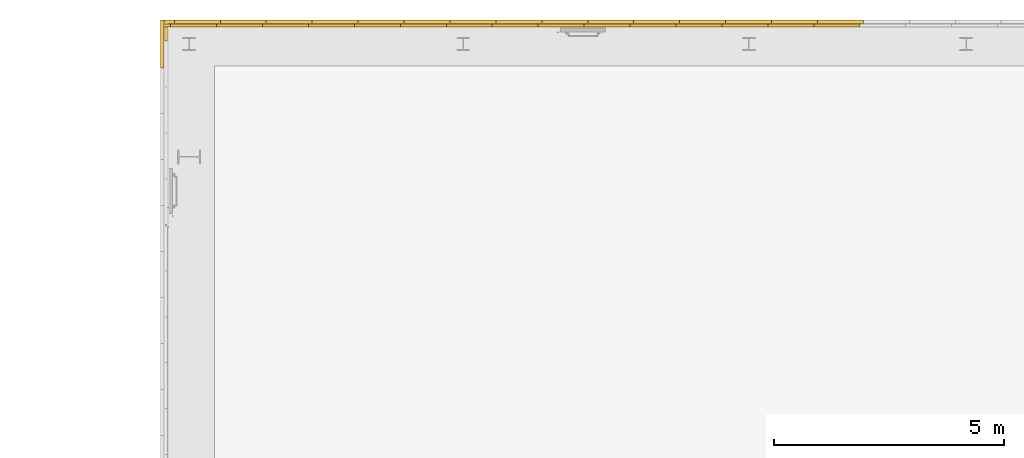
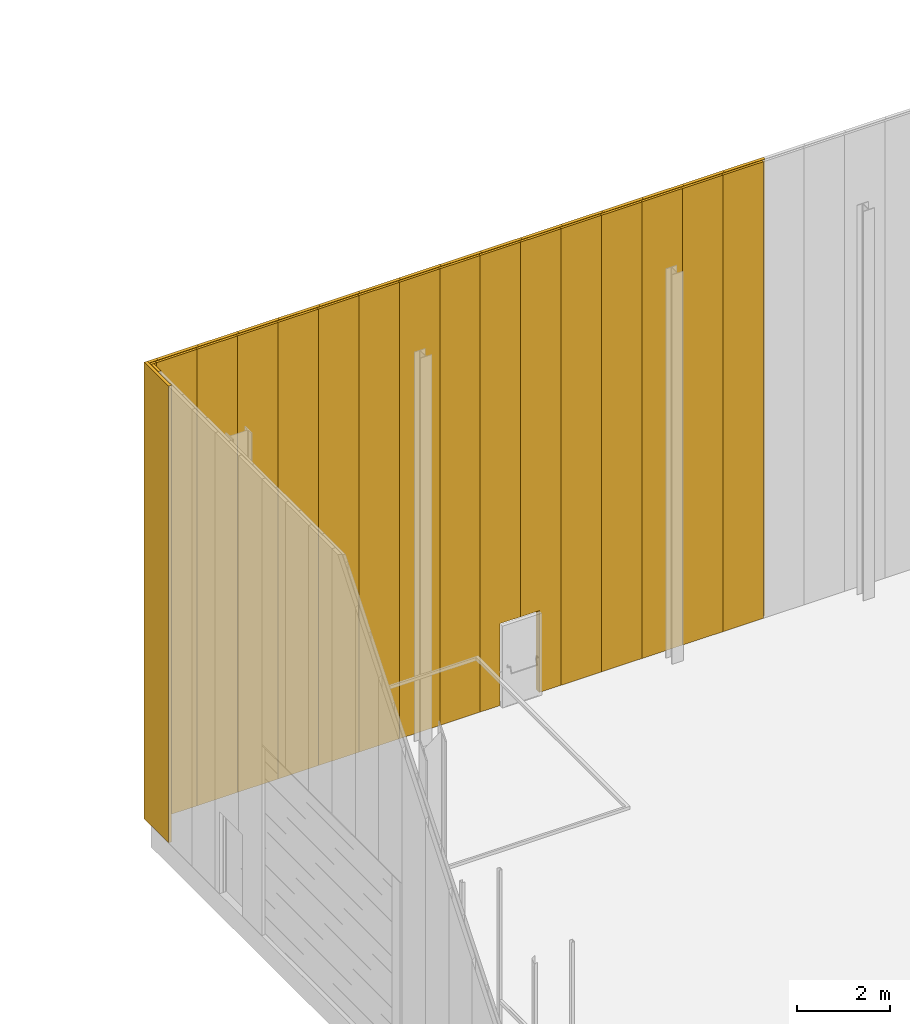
# One storey, part 247 of 302: 34 curtain walls, 4 openings, 4 elements without a shape of their own.
"""IFC2X3 building model written with IfcOpenShell, lengths in metres."""

from ifc_helpers import new_model, entity, si_unit, converted_unit, derived_unit, direction, frame, frame_2d, origin, place, context, subcontext, project, spatial, rectangle, extrude, material, layer, layer_set, layer_usage, type_object, element, aggregate, save


model = new_model("IFC2X3")

# Units and contexts
model_context = context("Model", 3, precision=1e-05, world=origin(), true_north=direction((6.12303176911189e-17, 1.0)))
body_context = subcontext(model_context, "Body", "Model", "MODEL_VIEW")
ifc_project = project(units=[si_unit("LENGTHUNIT", "METRE"), si_unit("AREAUNIT", "SQUARE_METRE"), si_unit("VOLUMEUNIT", "CUBIC_METRE"), converted_unit("PLANEANGLEUNIT", "DEGREE", entity("IfcRatioMeasure", 0.0174532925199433), si_unit("PLANEANGLEUNIT", "RADIAN"), dimensions=[0, 0, 0, 0, 0, 0, 0]), si_unit("MASSUNIT", "GRAM", prefix="KILO"), derived_unit("MASSDENSITYUNIT", [(si_unit("MASSUNIT", "GRAM", prefix="KILO"), 1), (si_unit("LENGTHUNIT", "METRE"), -3)]), derived_unit("MOMENTOFINERTIAUNIT", [(si_unit("LENGTHUNIT", "METRE"), 4)]), si_unit("TIMEUNIT", "SECOND"), si_unit("FREQUENCYUNIT", "HERTZ"), si_unit("THERMODYNAMICTEMPERATUREUNIT", "DEGREE_CELSIUS"), derived_unit("THERMALTRANSMITTANCEUNIT", [(si_unit("MASSUNIT", "GRAM", prefix="KILO"), 1), (si_unit("THERMODYNAMICTEMPERATUREUNIT", "KELVIN"), -1), (si_unit("TIMEUNIT", "SECOND"), -3)]), derived_unit("VOLUMETRICFLOWRATEUNIT", [(si_unit("LENGTHUNIT", "METRE"), 3), (si_unit("TIMEUNIT", "SECOND"), -1)]), si_unit("ELECTRICCURRENTUNIT", "AMPERE"), si_unit("ELECTRICVOLTAGEUNIT", "VOLT"), si_unit("POWERUNIT", "WATT"), si_unit("FORCEUNIT", "NEWTON", prefix="KILO"), si_unit("ILLUMINANCEUNIT", "LUX"), si_unit("LUMINOUSFLUXUNIT", "LUMEN"), si_unit("LUMINOUSINTENSITYUNIT", "CANDELA"), derived_unit("USERDEFINED", [(si_unit("MASSUNIT", "GRAM", prefix="KILO"), -1), (si_unit("LENGTHUNIT", "METRE"), -2), (si_unit("TIMEUNIT", "SECOND"), 3), (si_unit("LUMINOUSFLUXUNIT", "LUMEN"), 1)]), derived_unit("LINEARVELOCITYUNIT", [(si_unit("LENGTHUNIT", "METRE"), 1), (si_unit("TIMEUNIT", "SECOND"), -1)]), si_unit("PRESSUREUNIT", "PASCAL"), derived_unit("USERDEFINED", [(si_unit("LENGTHUNIT", "METRE"), -2), (si_unit("MASSUNIT", "GRAM", prefix="KILO"), 1), (si_unit("TIMEUNIT", "SECOND"), -2)]), derived_unit("LINEARFORCEUNIT", [(si_unit("MASSUNIT", "GRAM", prefix="KILO"), 1), (si_unit("LENGTHUNIT", "METRE"), 1), (si_unit("TIMEUNIT", "SECOND"), -2), (si_unit("LENGTHUNIT", "METRE"), -1)]), derived_unit("PLANARFORCEUNIT", [(si_unit("MASSUNIT", "GRAM", prefix="KILO"), 1), (si_unit("LENGTHUNIT", "METRE"), 1), (si_unit("TIMEUNIT", "SECOND"), -2), (si_unit("LENGTHUNIT", "METRE"), -2)])], contexts=[model_context])

# Site, building, storey
site_placement = place(None, origin())
site = spatial("IfcSite", under=ifc_project, at=site_placement, Name="Default", CompositionType="ELEMENT")
building_placement = place(site_placement, origin())
building = spatial("IfcBuilding", under=site, at=building_placement, CompositionType="ELEMENT")
storey_placement = place(building_placement, frame((0.0, 0.0, -1.3)))
storey = spatial("IfcBuildingStorey", under=building, at=storey_placement, Name="00_EG", CompositionType="ELEMENT", Elevation=-1.3)

# Curtain walls
curtain_wall_type_1 = type_object("IfcCurtainWallType", PredefinedType="NOTDEFINED")
curtain_wall_1_placement = place(storey_placement, frame((0.0, 0.0, 1.3)))
curtain_wall_1 = element("IfcCurtainWall", 1, at=curtain_wall_1_placement, inside=storey, type_object=curtain_wall_type_1)
ifc_material_1 = material(Name="Prepainted_Steel-ArcelorMittal_Construction_HAIRULTRA-35-CORAL-4309-[RAL_3000]")
ifc_layer_1 = layer(ifc_material_1, 0.01)
ifc_material_2 = material(Name="ArcelorMittal-MineralWool")
ifc_layer_2 = layer(ifc_material_2, 0.06)
ifc_layer_3 = layer(ifc_material_1, 0.01)
ifc_layer_set_1 = layer_set([ifc_layer_1, ifc_layer_2, ifc_layer_3], Name="Fassade:Sandwichpaneele Gebäude B 80mm")
ifc_layer_usage_1 = layer_usage(ifc_layer_set_1, "AXIS2", "NEGATIVE", 0.04)
curtain_wall_type_2 = type_object("IfcCurtainWallType", Name="Basiswand:Sandwichpaneele d = 8cm aussen", PredefinedType="NOTDEFINED", material=ifc_layer_set_1)
curtain_wall_2_placement = place(storey_placement, frame((-207.570111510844, 76.208088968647, 1.27), z_axis=(0.0, 0.0, 1.0), x_axis=(0.0, -1.0, 0.0)))
curtain_wall_2 = element("IfcCurtainWall", 2, at=curtain_wall_2_placement, type_object=curtain_wall_type_2, material=ifc_layer_usage_1, Name="Basiswand:Sandwichpaneele d = 8cm aussen", ObjectType="Basiswand:Sandwichpaneele d = 8cm aussen", context=body_context, shape_type="SweptSolid", body=[
    extrude(rectangle(XDim=1.04000000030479, YDim=0.0799999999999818, at=frame_2d((0.520000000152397, 0.0), x_axis=(-1.0, 0.0))), origin(), (0.0, 0.0, 1.0), 11.9314),
])
aggregate(curtain_wall_1, [curtain_wall_2])

# Curtain walls, openings
curtain_wall_3_placement = place(storey_placement, frame((0.0, 0.0, 1.3)))
curtain_wall_3 = element("IfcCurtainWall", 3, at=curtain_wall_3_placement, inside=storey, type_object=curtain_wall_type_1)
ifc_layer_usage_2 = layer_usage(ifc_layer_set_1, "AXIS2", "NEGATIVE", 0.04)
curtain_wall_4_placement = place(storey_placement, frame((-192.310111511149, 76.168088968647, 1.27), z_axis=(0.0, 0.0, 1.0), x_axis=(-1.0, 0.0, 0.0)))
curtain_wall_4 = element("IfcCurtainWall", 4, at=curtain_wall_4_placement, type_object=curtain_wall_type_2, material=ifc_layer_usage_2, Name="Basiswand:Sandwichpaneele d = 8cm aussen", ObjectType="Basiswand:Sandwichpaneele d = 8cm aussen", context=body_context, shape_type="SweptSolid", body=[
    extrude(rectangle(XDim=1.00000000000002, YDim=0.0799999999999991, at=frame_2d((0.500000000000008, 0.0), x_axis=(-1.0, 0.0))), origin(), (0.0, 0.0, 1.0), 11.9314),
])
ifc_layer_usage_3 = layer_usage(ifc_layer_set_1, "AXIS2", "NEGATIVE", 0.04)
curtain_wall_5_placement = place(storey_placement, frame((-193.310111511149, 76.168088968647, 1.27), z_axis=(0.0, 0.0, 1.0), x_axis=(-1.0, 0.0, 0.0)))
curtain_wall_5 = element("IfcCurtainWall", 5, at=curtain_wall_5_placement, type_object=curtain_wall_type_2, material=ifc_layer_usage_3, Name="Basiswand:Sandwichpaneele d = 8cm aussen", ObjectType="Basiswand:Sandwichpaneele d = 8cm aussen", context=body_context, shape_type="SweptSolid", body=[
    extrude(rectangle(XDim=0.999999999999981, YDim=0.0799999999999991, at=frame_2d((0.49999999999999, 0.0), x_axis=(-1.0, 0.0))), origin(), (0.0, 0.0, 1.0), 11.9314),
])
ifc_layer_usage_4 = layer_usage(ifc_layer_set_1, "AXIS2", "NEGATIVE", 0.04)
curtain_wall_6_placement = place(storey_placement, frame((-194.310111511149, 76.168088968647, 1.27), z_axis=(0.0, 0.0, 1.0), x_axis=(-1.0, 0.0, 0.0)))
curtain_wall_6 = element("IfcCurtainWall", 6, at=curtain_wall_6_placement, type_object=curtain_wall_type_2, material=ifc_layer_usage_4, Name="Basiswand:Sandwichpaneele d = 8cm aussen", ObjectType="Basiswand:Sandwichpaneele d = 8cm aussen", context=body_context, shape_type="SweptSolid", body=[
    extrude(rectangle(XDim=1.00000000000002, YDim=0.0799999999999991, at=frame_2d((0.500000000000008, 0.0), x_axis=(-1.0, 0.0))), origin(), (0.0, 0.0, 1.0), 11.9314),
])
ifc_layer_usage_5 = layer_usage(ifc_layer_set_1, "AXIS2", "NEGATIVE", 0.04)
curtain_wall_7_placement = place(storey_placement, frame((-195.310111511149, 76.168088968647, 1.27), z_axis=(0.0, 0.0, 1.0), x_axis=(-1.0, 0.0, 0.0)))
curtain_wall_7 = element("IfcCurtainWall", 7, at=curtain_wall_7_placement, type_object=curtain_wall_type_2, material=ifc_layer_usage_5, Name="Basiswand:Sandwichpaneele d = 8cm aussen", ObjectType="Basiswand:Sandwichpaneele d = 8cm aussen", context=body_context, shape_type="SweptSolid", body=[
    extrude(rectangle(XDim=1.00000000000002, YDim=0.0799999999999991, at=frame_2d((0.500000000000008, 0.0), x_axis=(-1.0, 0.0))), origin(), (0.0, 0.0, 1.0), 11.9314),
])
ifc_layer_usage_6 = layer_usage(ifc_layer_set_1, "AXIS2", "NEGATIVE", 0.04)
curtain_wall_8_placement = place(storey_placement, frame((-196.310111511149, 76.168088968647, 1.27), z_axis=(0.0, 0.0, 1.0), x_axis=(-1.0, 0.0, 0.0)))
curtain_wall_8 = element("IfcCurtainWall", 8, at=curtain_wall_8_placement, type_object=curtain_wall_type_2, material=ifc_layer_usage_6, Name="Basiswand:Sandwichpaneele d = 8cm aussen", ObjectType="Basiswand:Sandwichpaneele d = 8cm aussen", context=body_context, shape_type="SweptSolid", body=[
    extrude(rectangle(XDim=0.999999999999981, YDim=0.0799999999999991, at=frame_2d((0.49999999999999, 0.0), x_axis=(-1.0, 0.0))), origin(), (0.0, 0.0, 1.0), 11.9314),
])
ifc_layer_usage_7 = layer_usage(ifc_layer_set_1, "AXIS2", "NEGATIVE", 0.04)
curtain_wall_9_placement = place(storey_placement, frame((-197.310111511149, 76.168088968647, 1.27), z_axis=(0.0, 0.0, 1.0), x_axis=(-1.0, 0.0, 0.0)))
curtain_wall_9 = element("IfcCurtainWall", 9, at=curtain_wall_9_placement, type_object=curtain_wall_type_2, material=ifc_layer_usage_7, Name="Basiswand:Sandwichpaneele d = 8cm aussen", ObjectType="Basiswand:Sandwichpaneele d = 8cm aussen", context=body_context, shape_type="SweptSolid", body=[
    extrude(rectangle(XDim=1.00000000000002, YDim=0.0799999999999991, at=frame_2d((0.500000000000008, 0.0), x_axis=(-1.0, 0.0))), origin(), (0.0, 0.0, 1.0), 11.9314),
])
opening_1_placement = place(curtain_wall_9_placement, origin())
opening_1 = element("IfcOpeningElement", 10, at=opening_1_placement, cuts=curtain_wall_9, Name="Basiswand:Sandwichpaneele d = 8cm aussen", ObjectType="Opening", context=body_context, shape_type="SweptSolid", body=[
    extrude(rectangle(XDim=2.16999999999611, YDim=0.979999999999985, at=frame_2d((-1.73194791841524e-14, 4.44089209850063e-16), x_axis=(0.0, 1.0))), frame((1.10666669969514, -0.0400000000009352, 1.05499999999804), z_axis=(0.0, 1.0, 0.0), x_axis=(1.0, 0.0, 0.0)), (0.0, 0.0, 1.0), 0.169999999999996),
])
ifc_layer_usage_8 = layer_usage(ifc_layer_set_1, "AXIS2", "NEGATIVE", 0.04)
curtain_wall_10_placement = place(storey_placement, frame((-198.310111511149, 76.168088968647, 1.27), z_axis=(0.0, 0.0, 1.0), x_axis=(-1.0, 0.0, 0.0)))
curtain_wall_10 = element("IfcCurtainWall", 11, at=curtain_wall_10_placement, type_object=curtain_wall_type_2, material=ifc_layer_usage_8, Name="Basiswand:Sandwichpaneele d = 8cm aussen", ObjectType="Basiswand:Sandwichpaneele d = 8cm aussen", context=body_context, shape_type="SweptSolid", body=[
    extrude(rectangle(XDim=0.999999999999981, YDim=0.0799999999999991, at=frame_2d((0.49999999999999, 0.0), x_axis=(-1.0, 0.0))), origin(), (0.0, 0.0, 1.0), 11.9314),
])
opening_2_placement = place(curtain_wall_10_placement, origin())
opening_2 = element("IfcOpeningElement", 12, at=opening_2_placement, cuts=curtain_wall_10, Name="Basiswand:Sandwichpaneele d = 8cm aussen", ObjectType="Opening", context=body_context, shape_type="SweptSolid", body=[
    extrude(rectangle(XDim=2.16999999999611, YDim=0.979999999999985, at=frame_2d((-1.73194791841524e-14, 4.44089209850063e-16), x_axis=(0.0, 1.0))), frame((0.106666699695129, -0.0400000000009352, 1.05499999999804), z_axis=(0.0, 1.0, 0.0), x_axis=(1.0, 0.0, 0.0)), (0.0, 0.0, 1.0), 0.169999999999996),
])
ifc_layer_usage_9 = layer_usage(ifc_layer_set_1, "AXIS2", "NEGATIVE", 0.04)
curtain_wall_11_placement = place(storey_placement, frame((-199.310111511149, 76.168088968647, 1.27), z_axis=(0.0, 0.0, 1.0), x_axis=(-1.0, 0.0, 0.0)))
curtain_wall_11 = element("IfcCurtainWall", 13, at=curtain_wall_11_placement, type_object=curtain_wall_type_2, material=ifc_layer_usage_9, Name="Basiswand:Sandwichpaneele d = 8cm aussen", ObjectType="Basiswand:Sandwichpaneele d = 8cm aussen", context=body_context, shape_type="SweptSolid", body=[
    extrude(rectangle(XDim=1.00000000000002, YDim=0.0799999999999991, at=frame_2d((0.500000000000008, 0.0), x_axis=(-1.0, 0.0))), origin(), (0.0, 0.0, 1.0), 11.9314),
])
ifc_layer_usage_10 = layer_usage(ifc_layer_set_1, "AXIS2", "NEGATIVE", 0.04)
curtain_wall_12_placement = place(storey_placement, frame((-200.310111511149, 76.168088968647, 1.27), z_axis=(0.0, 0.0, 1.0), x_axis=(-1.0, 0.0, 0.0)))
curtain_wall_12 = element("IfcCurtainWall", 14, at=curtain_wall_12_placement, type_object=curtain_wall_type_2, material=ifc_layer_usage_10, Name="Basiswand:Sandwichpaneele d = 8cm aussen", ObjectType="Basiswand:Sandwichpaneele d = 8cm aussen", context=body_context, shape_type="SweptSolid", body=[
    extrude(rectangle(XDim=0.999999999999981, YDim=0.0799999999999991, at=frame_2d((0.49999999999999, 0.0), x_axis=(-1.0, 0.0))), origin(), (0.0, 0.0, 1.0), 11.9314),
])
ifc_layer_usage_11 = layer_usage(ifc_layer_set_1, "AXIS2", "NEGATIVE", 0.04)
curtain_wall_13_placement = place(storey_placement, frame((-201.310111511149, 76.168088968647, 1.27), z_axis=(0.0, 0.0, 1.0), x_axis=(-1.0, 0.0, 0.0)))
curtain_wall_13 = element("IfcCurtainWall", 15, at=curtain_wall_13_placement, type_object=curtain_wall_type_2, material=ifc_layer_usage_11, Name="Basiswand:Sandwichpaneele d = 8cm aussen", ObjectType="Basiswand:Sandwichpaneele d = 8cm aussen", context=body_context, shape_type="SweptSolid", body=[
    extrude(rectangle(XDim=1.00000000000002, YDim=0.0799999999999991, at=frame_2d((0.500000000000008, 0.0), x_axis=(-1.0, 0.0))), origin(), (0.0, 0.0, 1.0), 11.9314),
])
ifc_layer_usage_12 = layer_usage(ifc_layer_set_1, "AXIS2", "NEGATIVE", 0.04)
curtain_wall_14_placement = place(storey_placement, frame((-202.310111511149, 76.168088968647, 1.27), z_axis=(0.0, 0.0, 1.0), x_axis=(-1.0, 0.0, 0.0)))
curtain_wall_14 = element("IfcCurtainWall", 16, at=curtain_wall_14_placement, type_object=curtain_wall_type_2, material=ifc_layer_usage_12, Name="Basiswand:Sandwichpaneele d = 8cm aussen", ObjectType="Basiswand:Sandwichpaneele d = 8cm aussen", context=body_context, shape_type="SweptSolid", body=[
    extrude(rectangle(XDim=0.999999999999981, YDim=0.0799999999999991, at=frame_2d((0.49999999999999, 0.0), x_axis=(-1.0, 0.0))), origin(), (0.0, 0.0, 1.0), 11.9314),
])
ifc_layer_usage_13 = layer_usage(ifc_layer_set_1, "AXIS2", "NEGATIVE", 0.04)
curtain_wall_15_placement = place(storey_placement, frame((-203.310111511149, 76.168088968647, 1.27), z_axis=(0.0, 0.0, 1.0), x_axis=(-1.0, 0.0, 0.0)))
curtain_wall_15 = element("IfcCurtainWall", 17, at=curtain_wall_15_placement, type_object=curtain_wall_type_2, material=ifc_layer_usage_13, Name="Basiswand:Sandwichpaneele d = 8cm aussen", ObjectType="Basiswand:Sandwichpaneele d = 8cm aussen", context=body_context, shape_type="SweptSolid", body=[
    extrude(rectangle(XDim=1.00000000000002, YDim=0.0799999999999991, at=frame_2d((0.500000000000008, 0.0), x_axis=(-1.0, 0.0))), origin(), (0.0, 0.0, 1.0), 11.9314),
])
ifc_layer_usage_14 = layer_usage(ifc_layer_set_1, "AXIS2", "NEGATIVE", 0.04)
curtain_wall_16_placement = place(storey_placement, frame((-204.310111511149, 76.168088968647, 1.27), z_axis=(0.0, 0.0, 1.0), x_axis=(-1.0, 0.0, 0.0)))
curtain_wall_16 = element("IfcCurtainWall", 18, at=curtain_wall_16_placement, type_object=curtain_wall_type_2, material=ifc_layer_usage_14, Name="Basiswand:Sandwichpaneele d = 8cm aussen", ObjectType="Basiswand:Sandwichpaneele d = 8cm aussen", context=body_context, shape_type="SweptSolid", body=[
    extrude(rectangle(XDim=0.999999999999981, YDim=0.0799999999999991, at=frame_2d((0.49999999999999, 0.0), x_axis=(-1.0, 0.0))), origin(), (0.0, 0.0, 1.0), 11.9314),
])
ifc_layer_usage_15 = layer_usage(ifc_layer_set_1, "AXIS2", "NEGATIVE", 0.04)
curtain_wall_17_placement = place(storey_placement, frame((-205.310111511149, 76.168088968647, 1.27), z_axis=(0.0, 0.0, 1.0), x_axis=(-1.0, 0.0, 0.0)))
curtain_wall_17 = element("IfcCurtainWall", 19, at=curtain_wall_17_placement, type_object=curtain_wall_type_2, material=ifc_layer_usage_15, Name="Basiswand:Sandwichpaneele d = 8cm aussen", ObjectType="Basiswand:Sandwichpaneele d = 8cm aussen", context=body_context, shape_type="SweptSolid", body=[
    extrude(rectangle(XDim=1.00000000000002, YDim=0.0799999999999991, at=frame_2d((0.500000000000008, 0.0), x_axis=(-1.0, 0.0))), origin(), (0.0, 0.0, 1.0), 11.9314),
])
ifc_layer_usage_16 = layer_usage(ifc_layer_set_1, "AXIS2", "NEGATIVE", 0.04)
curtain_wall_18_placement = place(storey_placement, frame((-206.310111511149, 76.168088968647, 1.27), z_axis=(0.0, 0.0, 1.0), x_axis=(-1.0, 0.0, 0.0)))
curtain_wall_18 = element("IfcCurtainWall", 20, at=curtain_wall_18_placement, type_object=curtain_wall_type_2, material=ifc_layer_usage_16, Name="Basiswand:Sandwichpaneele d = 8cm aussen", ObjectType="Basiswand:Sandwichpaneele d = 8cm aussen", context=body_context, shape_type="SweptSolid", body=[
    extrude(rectangle(XDim=0.999999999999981, YDim=0.0799999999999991, at=frame_2d((0.49999999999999, 0.0), x_axis=(-1.0, 0.0))), origin(), (0.0, 0.0, 1.0), 11.9314),
])
ifc_layer_usage_17 = layer_usage(ifc_layer_set_1, "AXIS2", "NEGATIVE", 0.04)
curtain_wall_19_placement = place(storey_placement, frame((-207.310111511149, 76.168088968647, 1.27), z_axis=(0.0, 0.0, 1.0), x_axis=(-1.0, 0.0, 0.0)))
curtain_wall_19 = element("IfcCurtainWall", 21, at=curtain_wall_19_placement, type_object=curtain_wall_type_2, material=ifc_layer_usage_17, Name="Basiswand:Sandwichpaneele d = 8cm aussen", ObjectType="Basiswand:Sandwichpaneele d = 8cm aussen", context=body_context, shape_type="SweptSolid", body=[
    extrude(rectangle(XDim=0.219999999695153, YDim=0.0799999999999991, at=frame_2d((0.109999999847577, 0.0), x_axis=(-1.0, 0.0))), origin(), (0.0, 0.0, 1.0), 11.9314),
])
aggregate(curtain_wall_3, [curtain_wall_4, curtain_wall_5, curtain_wall_6, curtain_wall_7, curtain_wall_8, curtain_wall_9, opening_1, curtain_wall_10, opening_2, curtain_wall_11, curtain_wall_12, curtain_wall_13, curtain_wall_14, curtain_wall_15, curtain_wall_16, curtain_wall_17, curtain_wall_18, curtain_wall_19])

# Curtain walls
curtain_wall_type_3 = type_object("IfcCurtainWallType", PredefinedType="NOTDEFINED")
curtain_wall_20_placement = place(storey_placement, frame((0.0, 0.0, 1.3)))
curtain_wall_20 = element("IfcCurtainWall", 22, at=curtain_wall_20_placement, inside=storey, type_object=curtain_wall_type_3)
ifc_layer_4 = layer(ifc_material_1, 0.01)
ifc_layer_5 = layer(ifc_material_2, 0.04)
ifc_layer_6 = layer(ifc_material_1, 0.01)
ifc_layer_set_2 = layer_set([ifc_layer_4, ifc_layer_5, ifc_layer_6], Name="Fassade:Sandwichpaneele Gebäude B 60mm")
ifc_layer_usage_18 = layer_usage(ifc_layer_set_2, "AXIS2", "NEGATIVE", 0.03)
curtain_wall_type_4 = type_object("IfcCurtainWallType", Name="Basiswand:Sandwichpaneele d = 6cm aussen", PredefinedType="NOTDEFINED", material=ifc_layer_set_2)
curtain_wall_21_placement = place(storey_placement, frame((-207.490111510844, 75.7480889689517, 1.27), z_axis=(0.0, 0.0, 1.0), x_axis=(0.0, 1.0, 0.0)))
curtain_wall_21 = element("IfcCurtainWall", 23, at=curtain_wall_21_placement, type_object=curtain_wall_type_4, material=ifc_layer_usage_18, Name="Basiswand:Sandwichpaneele d = 6cm aussen", ObjectType="Basiswand:Sandwichpaneele d = 6cm aussen", context=body_context, shape_type="SweptSolid", body=[
    extrude(rectangle(XDim=0.309999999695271, YDim=0.0599999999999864, at=frame_2d((0.154999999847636, 0.0), x_axis=(-1.0, 0.0))), origin(), (0.0, 0.0, 1.0), 11.9314),
])
aggregate(curtain_wall_20, [curtain_wall_21])

# Curtain walls, openings
curtain_wall_22_placement = place(storey_placement, frame((0.0, 0.0, 1.3)))
curtain_wall_22 = element("IfcCurtainWall", 24, at=curtain_wall_22_placement, inside=storey, type_object=curtain_wall_type_3)
ifc_layer_usage_19 = layer_usage(ifc_layer_set_2, "AXIS2", "NEGATIVE", 0.03)
curtain_wall_23_placement = place(storey_placement, frame((-192.390111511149, 76.088088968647, 1.27), z_axis=(0.0, 0.0, 1.0), x_axis=(-1.0, 0.0, 0.0)))
curtain_wall_23 = element("IfcCurtainWall", 25, at=curtain_wall_23_placement, type_object=curtain_wall_type_4, material=ifc_layer_usage_19, Name="Basiswand:Sandwichpaneele d = 6cm aussen", ObjectType="Basiswand:Sandwichpaneele d = 6cm aussen", context=body_context, shape_type="SweptSolid", body=[
    extrude(rectangle(XDim=1.00000000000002, YDim=0.0600000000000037, at=frame_2d((0.500000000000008, 2.89698820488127e-16), x_axis=(-1.0, 0.0))), origin(), (0.0, 0.0, 1.0), 11.9314),
])
ifc_layer_usage_20 = layer_usage(ifc_layer_set_2, "AXIS2", "NEGATIVE", 0.03)
curtain_wall_24_placement = place(storey_placement, frame((-193.390111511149, 76.088088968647, 1.27), z_axis=(0.0, 0.0, 1.0), x_axis=(-1.0, 0.0, 0.0)))
curtain_wall_24 = element("IfcCurtainWall", 26, at=curtain_wall_24_placement, type_object=curtain_wall_type_4, material=ifc_layer_usage_20, Name="Basiswand:Sandwichpaneele d = 6cm aussen", ObjectType="Basiswand:Sandwichpaneele d = 6cm aussen", context=body_context, shape_type="SweptSolid", body=[
    extrude(rectangle(XDim=1.00000000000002, YDim=0.0600000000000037, at=frame_2d((0.500000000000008, 2.89698820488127e-16), x_axis=(-1.0, 0.0))), origin(), (0.0, 0.0, 1.0), 11.9314),
])
ifc_layer_usage_21 = layer_usage(ifc_layer_set_2, "AXIS2", "NEGATIVE", 0.03)
curtain_wall_25_placement = place(storey_placement, frame((-194.390111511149, 76.088088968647, 1.27), z_axis=(0.0, 0.0, 1.0), x_axis=(-1.0, 0.0, 0.0)))
curtain_wall_25 = element("IfcCurtainWall", 27, at=curtain_wall_25_placement, type_object=curtain_wall_type_4, material=ifc_layer_usage_21, Name="Basiswand:Sandwichpaneele d = 6cm aussen", ObjectType="Basiswand:Sandwichpaneele d = 6cm aussen", context=body_context, shape_type="SweptSolid", body=[
    extrude(rectangle(XDim=0.999999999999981, YDim=0.0600000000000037, at=frame_2d((0.49999999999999, 2.89698820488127e-16), x_axis=(-1.0, 0.0))), origin(), (0.0, 0.0, 1.0), 11.9314),
])
ifc_layer_usage_22 = layer_usage(ifc_layer_set_2, "AXIS2", "NEGATIVE", 0.03)
curtain_wall_26_placement = place(storey_placement, frame((-195.390111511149, 76.088088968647, 1.27), z_axis=(0.0, 0.0, 1.0), x_axis=(-1.0, 0.0, 0.0)))
curtain_wall_26 = element("IfcCurtainWall", 28, at=curtain_wall_26_placement, type_object=curtain_wall_type_4, material=ifc_layer_usage_22, Name="Basiswand:Sandwichpaneele d = 6cm aussen", ObjectType="Basiswand:Sandwichpaneele d = 6cm aussen", context=body_context, shape_type="SweptSolid", body=[
    extrude(rectangle(XDim=1.00000000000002, YDim=0.0600000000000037, at=frame_2d((0.500000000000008, 2.89698820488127e-16), x_axis=(-1.0, 0.0))), origin(), (0.0, 0.0, 1.0), 11.9314),
])
ifc_layer_usage_23 = layer_usage(ifc_layer_set_2, "AXIS2", "NEGATIVE", 0.03)
curtain_wall_27_placement = place(storey_placement, frame((-196.390111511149, 76.088088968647, 1.27), z_axis=(0.0, 0.0, 1.0), x_axis=(-1.0, 0.0, 0.0)))
curtain_wall_27 = element("IfcCurtainWall", 29, at=curtain_wall_27_placement, type_object=curtain_wall_type_4, material=ifc_layer_usage_23, Name="Basiswand:Sandwichpaneele d = 6cm aussen", ObjectType="Basiswand:Sandwichpaneele d = 6cm aussen", context=body_context, shape_type="SweptSolid", body=[
    extrude(rectangle(XDim=0.999999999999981, YDim=0.0600000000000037, at=frame_2d((0.49999999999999, 2.89698820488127e-16), x_axis=(-1.0, 0.0))), origin(), (0.0, 0.0, 1.0), 11.9314),
])
ifc_layer_usage_24 = layer_usage(ifc_layer_set_2, "AXIS2", "NEGATIVE", 0.03)
curtain_wall_28_placement = place(storey_placement, frame((-197.390111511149, 76.088088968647, 1.27), z_axis=(0.0, 0.0, 1.0), x_axis=(-1.0, 0.0, 0.0)))
curtain_wall_28 = element("IfcCurtainWall", 30, at=curtain_wall_28_placement, type_object=curtain_wall_type_4, material=ifc_layer_usage_24, Name="Basiswand:Sandwichpaneele d = 6cm aussen", ObjectType="Basiswand:Sandwichpaneele d = 6cm aussen", context=body_context, shape_type="SweptSolid", body=[
    extrude(rectangle(XDim=1.00000000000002, YDim=0.0600000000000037, at=frame_2d((0.500000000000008, 2.89698820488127e-16), x_axis=(-1.0, 0.0))), origin(), (0.0, 0.0, 1.0), 11.9314),
])
opening_3_placement = place(curtain_wall_28_placement, origin())
opening_3 = element("IfcOpeningElement", 31, at=opening_3_placement, cuts=curtain_wall_28, Name="Basiswand:Sandwichpaneele d = 6cm aussen", ObjectType="Opening", context=body_context, shape_type="SweptSolid", body=[
    extrude(rectangle(XDim=2.16999999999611, YDim=0.979999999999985, at=frame_2d((-1.73194791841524e-14, 4.44089209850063e-16), x_axis=(0.0, 1.0))), frame((1.02666669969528, -0.12000000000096, 1.05499999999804), z_axis=(0.0, 1.0, 0.0), x_axis=(1.0, 0.0, 0.0)), (0.0, 0.0, 1.0), 0.169999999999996),
])
ifc_layer_usage_25 = layer_usage(ifc_layer_set_2, "AXIS2", "NEGATIVE", 0.03)
curtain_wall_29_placement = place(storey_placement, frame((-198.390111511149, 76.088088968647, 1.27), z_axis=(0.0, 0.0, 1.0), x_axis=(-1.0, 0.0, 0.0)))
curtain_wall_29 = element("IfcCurtainWall", 32, at=curtain_wall_29_placement, type_object=curtain_wall_type_4, material=ifc_layer_usage_25, Name="Basiswand:Sandwichpaneele d = 6cm aussen", ObjectType="Basiswand:Sandwichpaneele d = 6cm aussen", context=body_context, shape_type="SweptSolid", body=[
    extrude(rectangle(XDim=0.999999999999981, YDim=0.0600000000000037, at=frame_2d((0.49999999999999, 2.89698820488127e-16), x_axis=(-1.0, 0.0))), origin(), (0.0, 0.0, 1.0), 11.9314),
])
opening_4_placement = place(curtain_wall_29_placement, frame((-198.390111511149, 76.088088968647, -1.27), z_axis=(0.0, 0.0, 1.0), x_axis=(-1.0, 0.0, 0.0)))
element("IfcOpeningElement", 33, at=opening_4_placement, cuts=curtain_wall_29, Name="Basiswand:Sandwichpaneele d = 6cm aussen", ObjectType="Opening", context=body_context, shape_type="SweptSolid", body=[
    extrude(rectangle(XDim=2.16999999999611, YDim=0.979999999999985, at=frame_2d((-1.73194791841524e-14, 4.44089209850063e-16), x_axis=(0.0, 1.0))), frame((-198.416778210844, 76.208088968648, 2.32499999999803), z_axis=(0.0, -1.0, 0.0), x_axis=(-1.0, 0.0, 0.0)), (0.0, 0.0, 1.0), 0.169999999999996),
])
ifc_layer_usage_26 = layer_usage(ifc_layer_set_2, "AXIS2", "NEGATIVE", 0.03)
curtain_wall_30_placement = place(storey_placement, frame((-199.390111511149, 76.088088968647, 1.27), z_axis=(0.0, 0.0, 1.0), x_axis=(-1.0, 0.0, 0.0)))
curtain_wall_30 = element("IfcCurtainWall", 34, at=curtain_wall_30_placement, type_object=curtain_wall_type_4, material=ifc_layer_usage_26, Name="Basiswand:Sandwichpaneele d = 6cm aussen", ObjectType="Basiswand:Sandwichpaneele d = 6cm aussen", context=body_context, shape_type="SweptSolid", body=[
    extrude(rectangle(XDim=1.00000000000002, YDim=0.0600000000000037, at=frame_2d((0.500000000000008, -4.04190569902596e-15), x_axis=(-1.0, 0.0))), origin(), (0.0, 0.0, 1.0), 11.9314),
])
ifc_layer_usage_27 = layer_usage(ifc_layer_set_2, "AXIS2", "NEGATIVE", 0.03)
curtain_wall_31_placement = place(storey_placement, frame((-200.390111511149, 76.088088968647, 1.27), z_axis=(0.0, 0.0, 1.0), x_axis=(-1.0, 0.0, 0.0)))
curtain_wall_31 = element("IfcCurtainWall", 35, at=curtain_wall_31_placement, type_object=curtain_wall_type_4, material=ifc_layer_usage_27, Name="Basiswand:Sandwichpaneele d = 6cm aussen", ObjectType="Basiswand:Sandwichpaneele d = 6cm aussen", context=body_context, shape_type="SweptSolid", body=[
    extrude(rectangle(XDim=0.999999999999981, YDim=0.0600000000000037, at=frame_2d((0.49999999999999, 2.89698820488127e-16), x_axis=(-1.0, 0.0))), origin(), (0.0, 0.0, 1.0), 11.9314),
])
ifc_layer_usage_28 = layer_usage(ifc_layer_set_2, "AXIS2", "NEGATIVE", 0.03)
curtain_wall_32_placement = place(storey_placement, frame((-201.390111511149, 76.088088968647, 1.27), z_axis=(0.0, 0.0, 1.0), x_axis=(-1.0, 0.0, 0.0)))
curtain_wall_32 = element("IfcCurtainWall", 36, at=curtain_wall_32_placement, type_object=curtain_wall_type_4, material=ifc_layer_usage_28, Name="Basiswand:Sandwichpaneele d = 6cm aussen", ObjectType="Basiswand:Sandwichpaneele d = 6cm aussen", context=body_context, shape_type="SweptSolid", body=[
    extrude(rectangle(XDim=1.00000000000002, YDim=0.0600000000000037, at=frame_2d((0.500000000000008, 2.89698820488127e-16), x_axis=(-1.0, 0.0))), origin(), (0.0, 0.0, 1.0), 11.9314),
])
ifc_layer_usage_29 = layer_usage(ifc_layer_set_2, "AXIS2", "NEGATIVE", 0.03)
curtain_wall_33_placement = place(storey_placement, frame((-202.390111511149, 76.088088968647, 1.27), z_axis=(0.0, 0.0, 1.0), x_axis=(-1.0, 0.0, 0.0)))
curtain_wall_33 = element("IfcCurtainWall", 37, at=curtain_wall_33_placement, type_object=curtain_wall_type_4, material=ifc_layer_usage_29, Name="Basiswand:Sandwichpaneele d = 6cm aussen", ObjectType="Basiswand:Sandwichpaneele d = 6cm aussen", context=body_context, shape_type="SweptSolid", body=[
    extrude(rectangle(XDim=0.999999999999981, YDim=0.0600000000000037, at=frame_2d((0.49999999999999, 2.89698820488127e-16), x_axis=(-1.0, 0.0))), origin(), (0.0, 0.0, 1.0), 11.9314),
])
ifc_layer_usage_30 = layer_usage(ifc_layer_set_2, "AXIS2", "NEGATIVE", 0.03)
curtain_wall_34_placement = place(storey_placement, frame((-203.390111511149, 76.088088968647, 1.27), z_axis=(0.0, 0.0, 1.0), x_axis=(-1.0, 0.0, 0.0)))
curtain_wall_34 = element("IfcCurtainWall", 38, at=curtain_wall_34_placement, type_object=curtain_wall_type_4, material=ifc_layer_usage_30, Name="Basiswand:Sandwichpaneele d = 6cm aussen", ObjectType="Basiswand:Sandwichpaneele d = 6cm aussen", context=body_context, shape_type="SweptSolid", body=[
    extrude(rectangle(XDim=1.00000000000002, YDim=0.0600000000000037, at=frame_2d((0.500000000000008, 2.89698820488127e-16), x_axis=(-1.0, 0.0))), origin(), (0.0, 0.0, 1.0), 11.9314),
])
ifc_layer_usage_31 = layer_usage(ifc_layer_set_2, "AXIS2", "NEGATIVE", 0.03)
curtain_wall_35_placement = place(storey_placement, frame((-204.390111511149, 76.088088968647, 1.27), z_axis=(0.0, 0.0, 1.0), x_axis=(-1.0, 0.0, 0.0)))
curtain_wall_35 = element("IfcCurtainWall", 39, at=curtain_wall_35_placement, type_object=curtain_wall_type_4, material=ifc_layer_usage_31, Name="Basiswand:Sandwichpaneele d = 6cm aussen", ObjectType="Basiswand:Sandwichpaneele d = 6cm aussen", context=body_context, shape_type="SweptSolid", body=[
    extrude(rectangle(XDim=0.999999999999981, YDim=0.0600000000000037, at=frame_2d((0.49999999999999, 2.89698820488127e-16), x_axis=(-1.0, 0.0))), origin(), (0.0, 0.0, 1.0), 11.9314),
])
ifc_layer_usage_32 = layer_usage(ifc_layer_set_2, "AXIS2", "NEGATIVE", 0.03)
curtain_wall_36_placement = place(storey_placement, frame((-205.390111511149, 76.088088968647, 1.27), z_axis=(0.0, 0.0, 1.0), x_axis=(-1.0, 0.0, 0.0)))
curtain_wall_36 = element("IfcCurtainWall", 40, at=curtain_wall_36_placement, type_object=curtain_wall_type_4, material=ifc_layer_usage_32, Name="Basiswand:Sandwichpaneele d = 6cm aussen", ObjectType="Basiswand:Sandwichpaneele d = 6cm aussen", context=body_context, shape_type="SweptSolid", body=[
    extrude(rectangle(XDim=1.00000000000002, YDim=0.0600000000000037, at=frame_2d((0.500000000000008, 2.89698820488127e-16), x_axis=(-1.0, 0.0))), origin(), (0.0, 0.0, 1.0), 11.9314),
])
ifc_layer_usage_33 = layer_usage(ifc_layer_set_2, "AXIS2", "NEGATIVE", 0.03)
curtain_wall_37_placement = place(storey_placement, frame((-206.390111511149, 76.088088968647, 1.27), z_axis=(0.0, 0.0, 1.0), x_axis=(-1.0, 0.0, 0.0)))
curtain_wall_37 = element("IfcCurtainWall", 41, at=curtain_wall_37_placement, type_object=curtain_wall_type_4, material=ifc_layer_usage_33, Name="Basiswand:Sandwichpaneele d = 6cm aussen", ObjectType="Basiswand:Sandwichpaneele d = 6cm aussen", context=body_context, shape_type="SweptSolid", body=[
    extrude(rectangle(XDim=0.999999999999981, YDim=0.0600000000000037, at=frame_2d((0.49999999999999, 2.89698820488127e-16), x_axis=(-1.0, 0.0))), origin(), (0.0, 0.0, 1.0), 11.9314),
])
ifc_layer_usage_34 = layer_usage(ifc_layer_set_2, "AXIS2", "NEGATIVE", 0.03)
curtain_wall_38_placement = place(storey_placement, frame((-207.390111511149, 76.088088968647, 1.27), z_axis=(0.0, 0.0, 1.0), x_axis=(-1.0, 0.0, 0.0)))
curtain_wall_38 = element("IfcCurtainWall", 42, at=curtain_wall_38_placement, type_object=curtain_wall_type_4, material=ifc_layer_usage_34, Name="Basiswand:Sandwichpaneele d = 6cm aussen", ObjectType="Basiswand:Sandwichpaneele d = 6cm aussen", context=body_context, shape_type="SweptSolid", body=[
    extrude(rectangle(XDim=0.129999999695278, YDim=0.0600000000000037, at=frame_2d((0.0649999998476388, 3.81639164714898e-17), x_axis=(-1.0, 0.0))), origin(), (0.0, 0.0, 1.0), 11.9314),
])
aggregate(curtain_wall_22, [curtain_wall_23, curtain_wall_24, curtain_wall_25, curtain_wall_26, curtain_wall_27, curtain_wall_28, opening_3, curtain_wall_29, curtain_wall_30, curtain_wall_31, curtain_wall_32, curtain_wall_33, curtain_wall_34, curtain_wall_35, curtain_wall_36, curtain_wall_37, curtain_wall_38])

save(model, "model.ifc")
